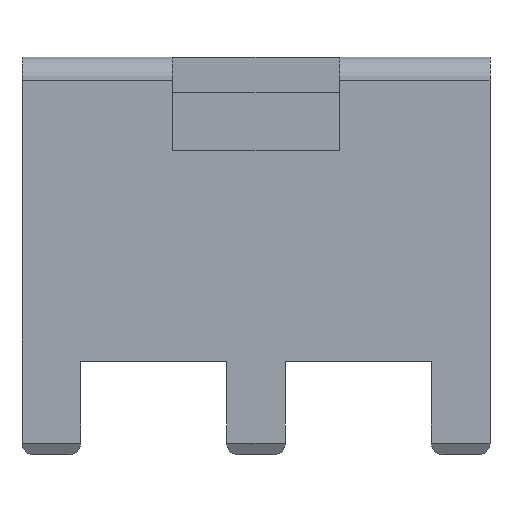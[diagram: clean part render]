
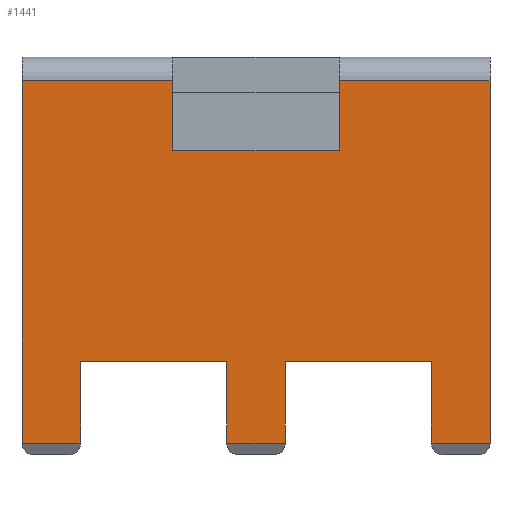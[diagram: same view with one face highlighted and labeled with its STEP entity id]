
A CAD part, front view. The second image highlights one B-rep face of the part: STEP entity #1441.
In plain terms, the highlighted planar face has unit normal (0, -1, 0).
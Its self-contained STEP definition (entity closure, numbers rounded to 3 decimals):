
#194=CARTESIAN_POINT('Vertex',(7.5,-7.5,4.)) ;
#199=CARTESIAN_POINT('Line Origine',(4.375,-7.5,4.)) ;
#203=CARTESIAN_POINT('Vertex',(1.25,-7.5,4.)) ;
#299=CARTESIAN_POINT('Vertex',(-1.25,-7.5,4.)) ;
#304=CARTESIAN_POINT('Line Origine',(-4.375,-7.5,4.)) ;
#308=CARTESIAN_POINT('Vertex',(-7.5,-7.5,4.)) ;
#443=CARTESIAN_POINT('Line Origine',(0.,-7.5,16.)) ;
#447=CARTESIAN_POINT('Vertex',(10.,-7.5,16.)) ;
#449=CARTESIAN_POINT('Vertex',(3.55,-7.5,16.)) ;
#473=CARTESIAN_POINT('Vertex',(-10.,-7.5,16.)) ;
#476=CARTESIAN_POINT('Line Origine',(0.,-7.5,16.)) ;
#480=CARTESIAN_POINT('Vertex',(-3.55,-7.5,16.)) ;
#662=CARTESIAN_POINT('Line Origine',(0.,-7.5,13.)) ;
#666=CARTESIAN_POINT('Vertex',(-3.55,-7.5,13.)) ;
#668=CARTESIAN_POINT('Vertex',(3.55,-7.5,13.)) ;
#707=CARTESIAN_POINT('Line Origine',(3.55,-7.5,14.5)) ;
#721=CARTESIAN_POINT('Line Origine',(-3.55,-7.5,14.5)) ;
#769=CARTESIAN_POINT('Line Origine',(-7.5,-7.5,2.25)) ;
#773=CARTESIAN_POINT('Vertex',(-7.5,-7.5,0.5)) ;
#793=CARTESIAN_POINT('Line Origine',(-1.25,-7.5,2.25)) ;
#797=CARTESIAN_POINT('Vertex',(-1.25,-7.5,0.5)) ;
#831=CARTESIAN_POINT('Line Origine',(1.25,-7.5,2.25)) ;
#835=CARTESIAN_POINT('Vertex',(1.25,-7.5,0.5)) ;
#855=CARTESIAN_POINT('Line Origine',(7.5,-7.5,2.25)) ;
#859=CARTESIAN_POINT('Vertex',(7.5,-7.5,0.5)) ;
#893=CARTESIAN_POINT('Line Origine',(10.,-7.5,8.25)) ;
#897=CARTESIAN_POINT('Vertex',(10.,-7.5,0.5)) ;
#1071=CARTESIAN_POINT('Vertex',(-10.,-7.5,0.5)) ;
#1074=CARTESIAN_POINT('Line Origine',(-10.,-7.5,8.25)) ;
#1215=CARTESIAN_POINT('Line Origine',(0.,-7.5,0.5)) ;
#1257=CARTESIAN_POINT('Line Origine',(0.,-7.5,0.5)) ;
#1413=CARTESIAN_POINT('Axis2P3D Location',(0.,-7.5,0.)) ;
#1418=CARTESIAN_POINT('Line Origine',(8.75,-7.5,0.5)) ;
#200=DIRECTION('Vector Direction',(-1.,0.,0.)) ;
#305=DIRECTION('Vector Direction',(-1.,0.,0.)) ;
#444=DIRECTION('Vector Direction',(1.,0.,0.)) ;
#477=DIRECTION('Vector Direction',(1.,0.,0.)) ;
#663=DIRECTION('Vector Direction',(1.,0.,0.)) ;
#708=DIRECTION('Vector Direction',(0.,0.,-1.)) ;
#722=DIRECTION('Vector Direction',(0.,0.,-1.)) ;
#770=DIRECTION('Vector Direction',(0.,0.,-1.)) ;
#794=DIRECTION('Vector Direction',(0.,0.,1.)) ;
#832=DIRECTION('Vector Direction',(0.,0.,-1.)) ;
#856=DIRECTION('Vector Direction',(0.,0.,1.)) ;
#894=DIRECTION('Vector Direction',(0.,0.,1.)) ;
#1075=DIRECTION('Vector Direction',(0.,0.,1.)) ;
#1216=DIRECTION('Vector Direction',(1.,0.,0.)) ;
#1258=DIRECTION('Vector Direction',(1.,0.,0.)) ;
#1414=DIRECTION('Axis2P3D Direction',(0.,-1.,0.)) ;
#1415=DIRECTION('Axis2P3D XDirection',(0.,0.,1.)) ;
#1419=DIRECTION('Vector Direction',(1.,0.,0.)) ;
#1416=AXIS2_PLACEMENT_3D('Plane Axis2P3D',#1413,#1414,#1415) ;
#1424=ORIENTED_EDGE('',*,*,#899,.F.) ;
#1425=ORIENTED_EDGE('',*,*,#451,.T.) ;
#1426=ORIENTED_EDGE('',*,*,#711,.T.) ;
#1427=ORIENTED_EDGE('',*,*,#670,.F.) ;
#1428=ORIENTED_EDGE('',*,*,#725,.F.) ;
#1429=ORIENTED_EDGE('',*,*,#482,.T.) ;
#1430=ORIENTED_EDGE('',*,*,#1078,.T.) ;
#1431=ORIENTED_EDGE('',*,*,#1219,.F.) ;
#1432=ORIENTED_EDGE('',*,*,#775,.F.) ;
#1433=ORIENTED_EDGE('',*,*,#310,.F.) ;
#1434=ORIENTED_EDGE('',*,*,#799,.F.) ;
#1435=ORIENTED_EDGE('',*,*,#1261,.F.) ;
#1436=ORIENTED_EDGE('',*,*,#837,.F.) ;
#1437=ORIENTED_EDGE('',*,*,#205,.F.) ;
#1438=ORIENTED_EDGE('',*,*,#861,.F.) ;
#1439=ORIENTED_EDGE('',*,*,#1422,.F.) ;
#201=VECTOR('Line Direction',#200,1.) ;
#306=VECTOR('Line Direction',#305,1.) ;
#445=VECTOR('Line Direction',#444,1.) ;
#478=VECTOR('Line Direction',#477,1.) ;
#664=VECTOR('Line Direction',#663,1.) ;
#709=VECTOR('Line Direction',#708,1.) ;
#723=VECTOR('Line Direction',#722,1.) ;
#771=VECTOR('Line Direction',#770,1.) ;
#795=VECTOR('Line Direction',#794,1.) ;
#833=VECTOR('Line Direction',#832,1.) ;
#857=VECTOR('Line Direction',#856,1.) ;
#895=VECTOR('Line Direction',#894,1.) ;
#1076=VECTOR('Line Direction',#1075,1.) ;
#1217=VECTOR('Line Direction',#1216,1.) ;
#1259=VECTOR('Line Direction',#1258,1.) ;
#1420=VECTOR('Line Direction',#1419,1.) ;
#1441=ADVANCED_FACE('\X2\7AEF5B50\X0\',(#1440),#1417,.T.) ;
#205=EDGE_CURVE('',#195,#204,#202,.T.) ;
#310=EDGE_CURVE('',#300,#309,#307,.T.) ;
#451=EDGE_CURVE('',#448,#450,#446,.F.) ;
#482=EDGE_CURVE('',#481,#474,#479,.F.) ;
#670=EDGE_CURVE('',#667,#669,#665,.T.) ;
#711=EDGE_CURVE('',#450,#669,#710,.T.) ;
#725=EDGE_CURVE('',#481,#667,#724,.T.) ;
#775=EDGE_CURVE('',#309,#774,#772,.T.) ;
#799=EDGE_CURVE('',#798,#300,#796,.T.) ;
#837=EDGE_CURVE('',#204,#836,#834,.T.) ;
#861=EDGE_CURVE('',#860,#195,#858,.T.) ;
#899=EDGE_CURVE('',#448,#898,#896,.F.) ;
#1078=EDGE_CURVE('',#474,#1072,#1077,.F.) ;
#1219=EDGE_CURVE('',#774,#1072,#1218,.F.) ;
#1261=EDGE_CURVE('',#836,#798,#1260,.F.) ;
#1422=EDGE_CURVE('',#898,#860,#1421,.F.) ;
#1423=EDGE_LOOP('',(#1424,#1425,#1426,#1427,#1428,#1429,#1430,#1431,#1432,#1433,#1434,#1435,#1436,#1437,#1438,#1439)) ;
#1440=FACE_OUTER_BOUND('',#1423,.T.) ;
#202=LINE('Line',#199,#201) ;
#307=LINE('Line',#304,#306) ;
#446=LINE('Line',#443,#445) ;
#479=LINE('Line',#476,#478) ;
#665=LINE('Line',#662,#664) ;
#710=LINE('Line',#707,#709) ;
#724=LINE('Line',#721,#723) ;
#772=LINE('Line',#769,#771) ;
#796=LINE('Line',#793,#795) ;
#834=LINE('Line',#831,#833) ;
#858=LINE('Line',#855,#857) ;
#896=LINE('Line',#893,#895) ;
#1077=LINE('Line',#1074,#1076) ;
#1218=LINE('Line',#1215,#1217) ;
#1260=LINE('Line',#1257,#1259) ;
#1421=LINE('Line',#1418,#1420) ;
#1417=PLANE('Plane',#1416) ;
#195=VERTEX_POINT('',#194) ;
#204=VERTEX_POINT('',#203) ;
#300=VERTEX_POINT('',#299) ;
#309=VERTEX_POINT('',#308) ;
#448=VERTEX_POINT('',#447) ;
#450=VERTEX_POINT('',#449) ;
#474=VERTEX_POINT('',#473) ;
#481=VERTEX_POINT('',#480) ;
#667=VERTEX_POINT('',#666) ;
#669=VERTEX_POINT('',#668) ;
#774=VERTEX_POINT('',#773) ;
#798=VERTEX_POINT('',#797) ;
#836=VERTEX_POINT('',#835) ;
#860=VERTEX_POINT('',#859) ;
#898=VERTEX_POINT('',#897) ;
#1072=VERTEX_POINT('',#1071) ;
